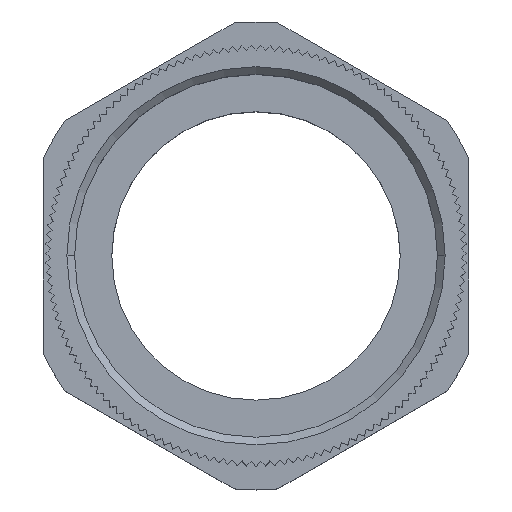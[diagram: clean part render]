
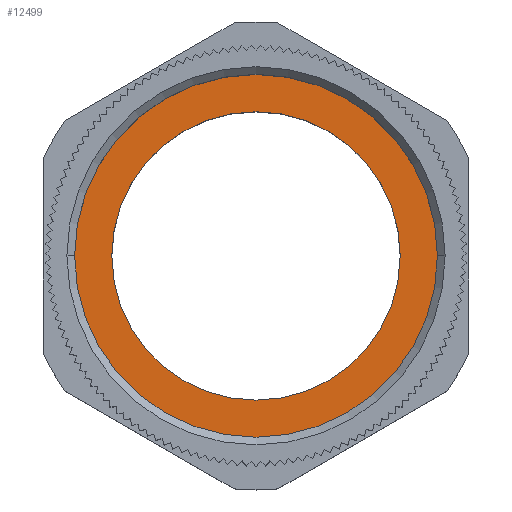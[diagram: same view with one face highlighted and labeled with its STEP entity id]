
A CAD part, top view. The second image highlights one B-rep face of the part: STEP entity #12499.
In plain terms, the highlighted planar face has unit normal (0, 0, 1).
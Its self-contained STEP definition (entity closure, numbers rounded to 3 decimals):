
#6811 = DIRECTION ( 'NONE',  ( 1., 0., 0. ) ) ;
#6812 = DIRECTION ( 'NONE',  ( 0., 0., 1. ) ) ;
#6813 = CARTESIAN_POINT ( 'NONE',  ( 0., 0., -11.5 ) ) ;
#6814 = AXIS2_PLACEMENT_3D ( 'NONE', #6813, #6812, #6811 ) ;
#6815 = CIRCLE ( 'NONE', #6814, 15.25 ) ;
#6876 = CARTESIAN_POINT ( 'NONE',  ( 15.25, 0., -11.5 ) ) ;
#6877 = CARTESIAN_POINT ( 'NONE',  ( -15.25, 0., -11.5 ) ) ;
#6889 = CARTESIAN_POINT ( 'NONE',  ( 19.188, 0., -11.5 ) ) ;
#6890 = CARTESIAN_POINT ( 'NONE',  ( -19.188, 0., -11.5 ) ) ;
#6891 = DIRECTION ( 'NONE',  ( 1., 0., 0. ) ) ;
#6892 = DIRECTION ( 'NONE',  ( 0., 0., 1. ) ) ;
#6893 = CARTESIAN_POINT ( 'NONE',  ( 0., 0., -11.5 ) ) ;
#6894 = AXIS2_PLACEMENT_3D ( 'NONE', #6893, #6892, #6891 ) ;
#6895 = CIRCLE ( 'NONE', #6894, 19.188 ) ;
#8384 = FACE_BOUND ( 'NONE', #12503, .T. ) ;
#8385 = DIRECTION ( 'NONE',  ( 1., 0., 0. ) ) ;
#8386 = DIRECTION ( 'NONE',  ( 0., 0., 1. ) ) ;
#8387 = AXIS2_PLACEMENT_3D ( 'NONE', #8394, #8386, #8385 ) ;
#8388 = CIRCLE ( 'NONE', #8387, 19.188 ) ;
#8389 = FACE_OUTER_BOUND ( 'NONE', #12500, .T. ) ;
#8394 = CARTESIAN_POINT ( 'NONE',  ( 0., 0., -11.5 ) ) ;
#8440 = DIRECTION ( 'NONE',  ( 1., 0., 0. ) ) ;
#8441 = DIRECTION ( 'NONE',  ( 0., 0., 1. ) ) ;
#8442 = CARTESIAN_POINT ( 'NONE',  ( 0., 0., -11.5 ) ) ;
#8443 = AXIS2_PLACEMENT_3D ( 'NONE', #8442, #8441, #8440 ) ;
#8444 = CIRCLE ( 'NONE', #8443, 15.25 ) ;
#8445 = DIRECTION ( 'NONE',  ( 1., 0., 0. ) ) ;
#8446 = DIRECTION ( 'NONE',  ( 0., 0., 1. ) ) ;
#8447 = CARTESIAN_POINT ( 'NONE',  ( 0., 19.188, -11.5 ) ) ;
#8448 = AXIS2_PLACEMENT_3D ( 'NONE', #8447, #8446, #8445 ) ;
#8449 = PLANE ( 'NONE',  #8448 ) ;
#11612 = EDGE_CURVE ( 'NONE', #11643, #11645, #6815, .T. ) ;
#11634 = EDGE_CURVE ( 'NONE', #11635, #11636, #6895, .T. ) ;
#11635 = VERTEX_POINT ( 'NONE', #6890 ) ;
#11636 = VERTEX_POINT ( 'NONE', #6889 ) ;
#11643 = VERTEX_POINT ( 'NONE', #6877 ) ;
#11645 = VERTEX_POINT ( 'NONE', #6876 ) ;
#12496 = EDGE_CURVE ( 'NONE', #11636, #11635, #8388, .T. ) ;
#12499 = ADVANCED_FACE ( 'NONE', ( #8389, #8384 ), #8449, .T. ) ;
#12500 = EDGE_LOOP ( 'NONE', ( #12501, #12502 ) ) ;
#12501 = ORIENTED_EDGE ( 'NONE', *, *, #12496, .T. ) ;
#12502 = ORIENTED_EDGE ( 'NONE', *, *, #11634, .T. ) ;
#12503 = EDGE_LOOP ( 'NONE', ( #12504, #12506 ) ) ;
#12504 = ORIENTED_EDGE ( 'NONE', *, *, #12505, .F. ) ;
#12505 = EDGE_CURVE ( 'NONE', #11645, #11643, #8444, .T. ) ;
#12506 = ORIENTED_EDGE ( 'NONE', *, *, #11612, .F. ) ;
